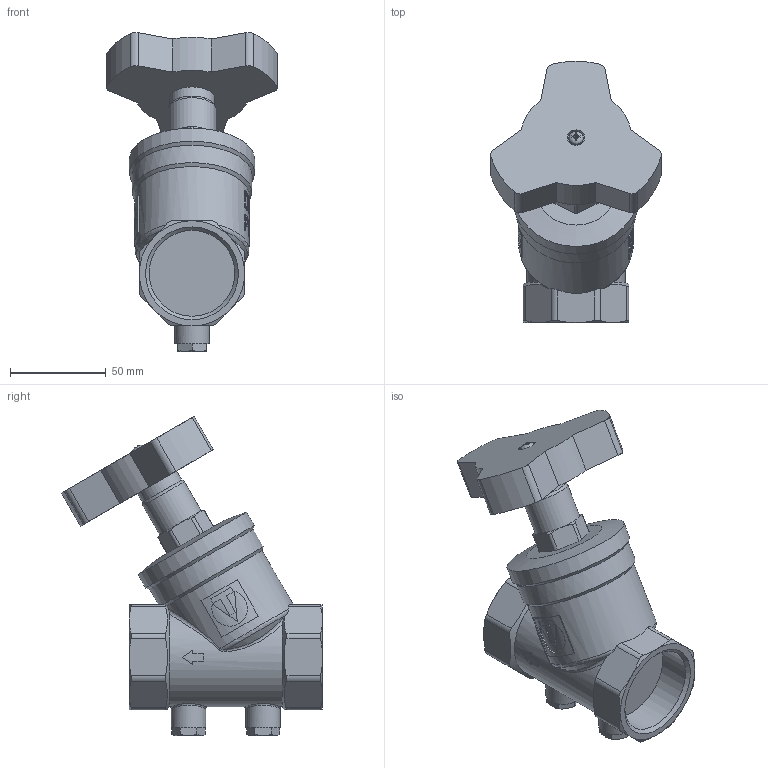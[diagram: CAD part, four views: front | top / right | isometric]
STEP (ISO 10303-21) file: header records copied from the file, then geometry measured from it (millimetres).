
FILE_DESCRIPTION(('STEP AP203'), '1');
FILE_NAME('覆.493116.006.000 捘 - VT.054.N.08', '2024-09-13T13:07:49', ('Boss'), (''), 'C3D Converter', 'C3D Toolkit', '');
FILE_SCHEMA(('CONFIG_CONTROL_DESIGN'));
Length unit declared in the file: millimetre
Products named in the file (3): ВР.493116.006.000 СБ
Assembly tree (2 placements, depth 2):
  ВР.493116.006.000 СБ
    (unnamed)
    (unnamed)
Bounding box: 89.31 x 136.34 x 166.69 mm (x, y, z)
Volume: 418478.8 mm3; surface area: 57911 mm2
Topology: 3 solids, 3 shells, 447 faces, 1177 edges, 766 vertices
Faces by surface type: plane 179, extrusion 123, cylinder 80, cone 52, bspline 9, torus 4
Full cylindrical faces by diameter (mm): 3.242 x1, 4 x1, 4.5 x1, 7.5 x1, 9.2 x1, 10 x1, 10.5 x1, 17.3 x1, 18 x2, 23.5 x1, 25 x1, 44.846 x2, 62.5 x1, 65.5 x1
Entity records: 25565 total; most frequent: CARTESIAN_POINT 15420, ORIENTED_EDGE 2294, DIRECTION 1594, EDGE_CURVE 1147, VERTEX_POINT 764, VECTOR 574, B_SPLINE_CURVE_WITH_KNOTS 566, AXIS2_PLACEMENT_3D 510
